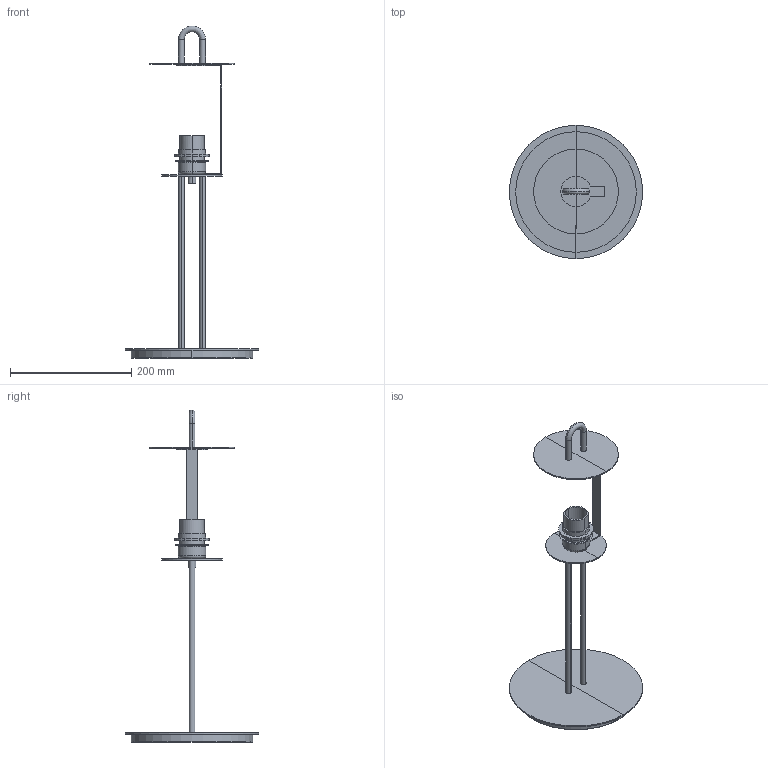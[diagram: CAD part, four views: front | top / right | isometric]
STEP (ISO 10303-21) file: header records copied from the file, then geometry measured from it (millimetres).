
FILE_DESCRIPTION(/* description */ (''),/* implementation_level */ '2;1');
FILE_NAME(/* name */ 'C:\Users\francosartori\Documents\Modelos\01_Digitalizados\0_MONTREAL\03_Publicación\24035.stp',/* time_stamp */ '2020-06-10T18:19:38+02:00',/* author */ ('FrancoSartori'),/* organization */ (''),/* preprocessor_version */ 'ST-DEVELOPER v18.1',/* originating_system */ 'AutoCAD Mechanical',/* authorisation */ '');
FILE_SCHEMA (('AUTOMOTIVE_DESIGN { 1 0 10303 214 3 1 1 }'));
Length unit declared in the file: millimetre
Products named in the file (2): Product; 24034_24035_MONTREAL - MONTREAL-444842-_3D_
Assembly tree (1 placements, depth 2):
  Product
    24034_24035_MONTREAL - MONTREAL-444842-_3D_
Bounding box: 220 x 220 x 547.34 mm (x, y, z)
Volume: 517909.5 mm3; surface area: 259340.1 mm2
Topology: 9 solids, 9 shells, 133 faces, 270 edges, 152 vertices
Faces by surface type: plane 62, cylinder 49, torus 14, bspline 4, cone 4
Entity records: 4762 total; most frequent: CARTESIAN_POINT 2011, DIRECTION 570, ORIENTED_EDGE 540, EDGE_CURVE 270, AXIS2_PLACEMENT_3D 228, VERTEX_POINT 152, EDGE_LOOP 134, FACE_OUTER_BOUND 133
